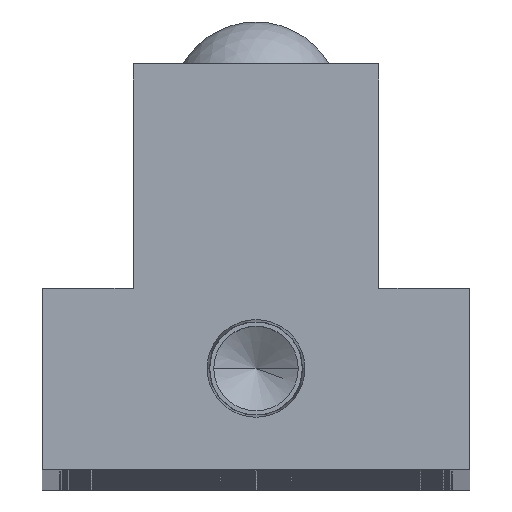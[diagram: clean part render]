
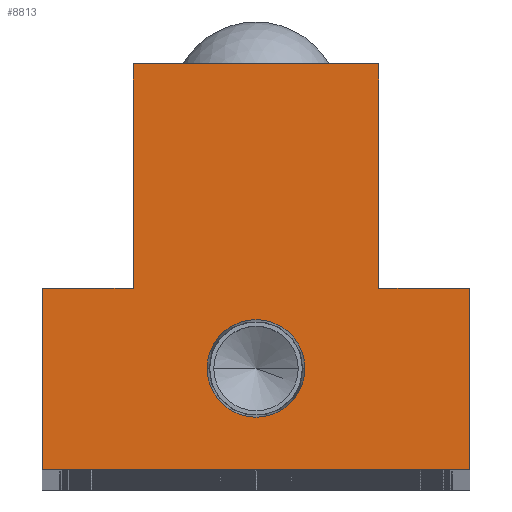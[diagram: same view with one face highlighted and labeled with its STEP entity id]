
A CAD part, top view. The second image highlights one B-rep face of the part: STEP entity #8813.
In plain terms, the highlighted planar face has unit normal (0, 0, 1).
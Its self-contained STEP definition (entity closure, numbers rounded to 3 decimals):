
#227 = DIRECTION ( 'NONE',  ( 0., -1., 0. ) ) ;
#989 = EDGE_CURVE ( 'NONE', #21887, #3605, #8670, .T. ) ;
#1142 = CIRCLE ( 'NONE', #17652, 4.574 ) ;
#1506 = AXIS2_PLACEMENT_3D ( 'NONE', #4891, #18820, #6877 ) ;
#1604 = CARTESIAN_POINT ( 'NONE',  ( 11.5, 38., 0. ) ) ;
#1930 = ORIENTED_EDGE ( 'NONE', *, *, #18026, .T. ) ;
#2025 = EDGE_CURVE ( 'NONE', #3605, #12276, #20469, .T. ) ;
#2072 = CARTESIAN_POINT ( 'NONE',  ( -4.574, 9.5, 0. ) ) ;
#2530 = VERTEX_POINT ( 'NONE', #20458 ) ;
#2834 = VECTOR ( 'NONE', #24218, 1000. ) ;
#3461 = LINE ( 'NONE', #4357, #2834 ) ;
#3605 = VERTEX_POINT ( 'NONE', #22095 ) ;
#3923 = PLANE ( 'NONE',  #17259 ) ;
#4001 = VECTOR ( 'NONE', #19327, 1000. ) ;
#4357 = CARTESIAN_POINT ( 'NONE',  ( 20., 0., 0. ) ) ;
#4445 = DIRECTION ( 'NONE',  ( -1., 0., 0. ) ) ;
#4580 = EDGE_CURVE ( 'NONE', #2530, #22048, #13254, .T. ) ;
#4891 = CARTESIAN_POINT ( 'NONE',  ( 0., 9.5, 0. ) ) ;
#5323 = CARTESIAN_POINT ( 'NONE',  ( -11.5, 17., 0. ) ) ;
#5901 = CARTESIAN_POINT ( 'NONE',  ( 0., 0., 0. ) ) ;
#6281 = VECTOR ( 'NONE', #18746, 1000. ) ;
#6342 = VERTEX_POINT ( 'NONE', #13680 ) ;
#6352 = CARTESIAN_POINT ( 'NONE',  ( 20., 17., 0. ) ) ;
#6421 = CARTESIAN_POINT ( 'NONE',  ( 11.5, 38., 0. ) ) ;
#6693 = VECTOR ( 'NONE', #7429, 1000. ) ;
#6802 = ORIENTED_EDGE ( 'NONE', *, *, #24764, .T. ) ;
#6877 = DIRECTION ( 'NONE',  ( 1., 0., 0. ) ) ;
#7246 = EDGE_CURVE ( 'NONE', #6342, #14337, #3461, .T. ) ;
#7321 = LINE ( 'NONE', #13359, #6693 ) ;
#7418 = CARTESIAN_POINT ( 'NONE',  ( 0., 9.5, 0. ) ) ;
#7429 = DIRECTION ( 'NONE',  ( -1., 0., 0. ) ) ;
#7761 = CARTESIAN_POINT ( 'NONE',  ( -20., 17., 0. ) ) ;
#8148 = EDGE_LOOP ( 'NONE', ( #24667, #14503, #22755, #22441, #16630, #1930, #8834, #6802 ) ) ;
#8425 = EDGE_CURVE ( 'NONE', #12276, #22973, #22146, .T. ) ;
#8670 = LINE ( 'NONE', #6352, #23911 ) ;
#8734 = FACE_BOUND ( 'NONE', #23900, .T. ) ;
#8813 = ADVANCED_FACE ( 'NONE', ( #8734, #19970 ), #3923, .F. ) ;
#8834 = ORIENTED_EDGE ( 'NONE', *, *, #7246, .T. ) ;
#9405 = DIRECTION ( 'NONE',  ( 1., 0., 0. ) ) ;
#9778 = VERTEX_POINT ( 'NONE', #5323 ) ;
#9894 = DIRECTION ( 'NONE',  ( 0., 0., -1. ) ) ;
#10952 = VECTOR ( 'NONE', #4445, 1000. ) ;
#11130 = LINE ( 'NONE', #14216, #15807 ) ;
#12276 = VERTEX_POINT ( 'NONE', #1604 ) ;
#13254 = CIRCLE ( 'NONE', #1506, 4.574 ) ;
#13262 = CARTESIAN_POINT ( 'NONE',  ( 11.5, 17., 0. ) ) ;
#13300 = EDGE_CURVE ( 'NONE', #22973, #9778, #11130, .T. ) ;
#13359 = CARTESIAN_POINT ( 'NONE',  ( -11.5, 17., 0. ) ) ;
#13680 = CARTESIAN_POINT ( 'NONE',  ( -20., 0., 0. ) ) ;
#13946 = ORIENTED_EDGE ( 'NONE', *, *, #21191, .F. ) ;
#14182 = VECTOR ( 'NONE', #25576, 1000. ) ;
#14216 = CARTESIAN_POINT ( 'NONE',  ( -11.5, 17., 0. ) ) ;
#14337 = VERTEX_POINT ( 'NONE', #25410 ) ;
#14369 = DIRECTION ( 'NONE',  ( -1., 0., 0. ) ) ;
#14503 = ORIENTED_EDGE ( 'NONE', *, *, #2025, .T. ) ;
#15702 = CARTESIAN_POINT ( 'NONE',  ( 20., 17., 0. ) ) ;
#15807 = VECTOR ( 'NONE', #227, 1000. ) ;
#16253 = LINE ( 'NONE', #24708, #6281 ) ;
#16630 = ORIENTED_EDGE ( 'NONE', *, *, #24681, .T. ) ;
#17259 = AXIS2_PLACEMENT_3D ( 'NONE', #5901, #9894, #23786 ) ;
#17404 = CARTESIAN_POINT ( 'NONE',  ( 20., 17., 0. ) ) ;
#17652 = AXIS2_PLACEMENT_3D ( 'NONE', #7418, #21322, #9405 ) ;
#18026 = EDGE_CURVE ( 'NONE', #24773, #6342, #16253, .T. ) ;
#18746 = DIRECTION ( 'NONE',  ( 0., -1., 0. ) ) ;
#18760 = ORIENTED_EDGE ( 'NONE', *, *, #4580, .F. ) ;
#18820 = DIRECTION ( 'NONE',  ( 0., 0., 1. ) ) ;
#19327 = DIRECTION ( 'NONE',  ( 0., 1., 0. ) ) ;
#19458 = LINE ( 'NONE', #15702, #14182 ) ;
#19970 = FACE_OUTER_BOUND ( 'NONE', #8148, .T. ) ;
#20458 = CARTESIAN_POINT ( 'NONE',  ( 4.574, 9.5, 0. ) ) ;
#20469 = LINE ( 'NONE', #13262, #4001 ) ;
#21191 = EDGE_CURVE ( 'NONE', #22048, #2530, #1142, .T. ) ;
#21322 = DIRECTION ( 'NONE',  ( 0., 0., 1. ) ) ;
#21678 = CARTESIAN_POINT ( 'NONE',  ( -11.5, 38., 0. ) ) ;
#21887 = VERTEX_POINT ( 'NONE', #17404 ) ;
#22048 = VERTEX_POINT ( 'NONE', #2072 ) ;
#22095 = CARTESIAN_POINT ( 'NONE',  ( 11.5, 17., 0. ) ) ;
#22146 = LINE ( 'NONE', #6421, #10952 ) ;
#22441 = ORIENTED_EDGE ( 'NONE', *, *, #13300, .T. ) ;
#22755 = ORIENTED_EDGE ( 'NONE', *, *, #8425, .T. ) ;
#22973 = VERTEX_POINT ( 'NONE', #21678 ) ;
#23786 = DIRECTION ( 'NONE',  ( -1., 0., 0. ) ) ;
#23900 = EDGE_LOOP ( 'NONE', ( #18760, #13946 ) ) ;
#23911 = VECTOR ( 'NONE', #14369, 1000. ) ;
#24218 = DIRECTION ( 'NONE',  ( 1., 0., 0. ) ) ;
#24667 = ORIENTED_EDGE ( 'NONE', *, *, #989, .T. ) ;
#24681 = EDGE_CURVE ( 'NONE', #9778, #24773, #7321, .T. ) ;
#24708 = CARTESIAN_POINT ( 'NONE',  ( -20., 0., 0. ) ) ;
#24764 = EDGE_CURVE ( 'NONE', #14337, #21887, #19458, .T. ) ;
#24773 = VERTEX_POINT ( 'NONE', #7761 ) ;
#25410 = CARTESIAN_POINT ( 'NONE',  ( 20., 0., 0. ) ) ;
#25576 = DIRECTION ( 'NONE',  ( 0., 1., 0. ) ) ;
